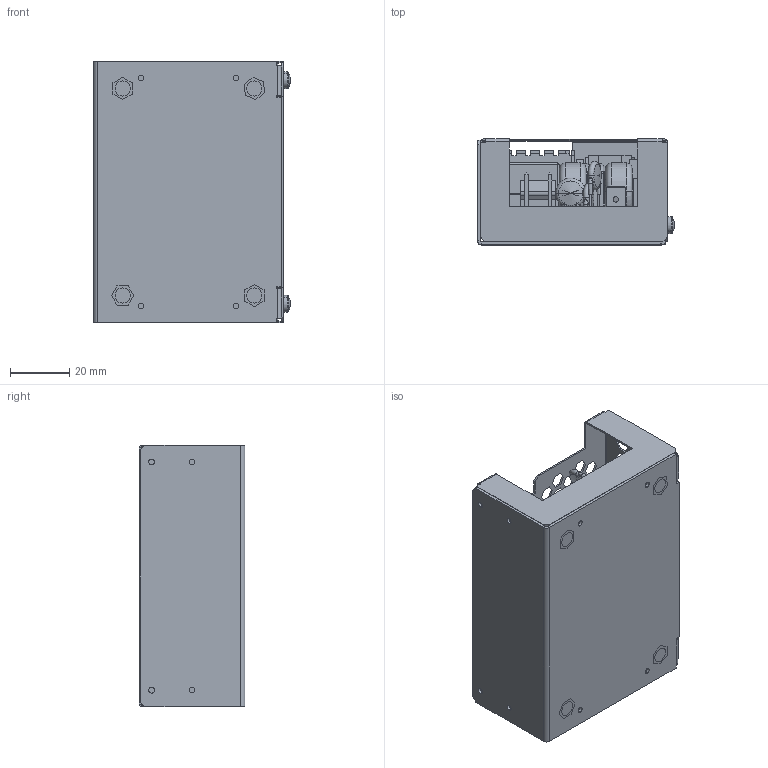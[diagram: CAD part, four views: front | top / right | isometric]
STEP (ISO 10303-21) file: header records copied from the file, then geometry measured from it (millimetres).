
FILE_DESCRIPTION (( 'STEP AP214' ), '1' );
FILE_NAME ('ECS45-5V-SINGLE-OUTPUT-WITH-COVER.STEP', '2010-06-29T18:21:40', ( 'ALL' ), ( 'XP Power' ), 'SwSTEP 2.0', 'SolidWorks 2010', '' );
FILE_SCHEMA (( 'AUTOMOTIVE_DESIGN' ));
Length unit declared in the file: inch
Products named in the file (40): Capacitor Disc_0.550 D_0.350" C; PHP_sqcone_Screw_M3-CW - 8; SCREW-PPH_M3.0X06; 1001054101; PQ20-20; WINDING; 10010385a0; ECS45-XFORMER; TO220_3P_FULL_01; Pot_TOCOS_G4C_TA; Capacitor Film_13x06mm_10 LS_15mm; Mov_0.350 D_A1_0.300" C; Capacitor Elec_10mm D_16mm; Capacitor Elec_05mm D_15mm; Inductor Toroid_19.0mm OD_10mm Width; Capacitor Film_18x07mm_15 LS_18mm H; Capacitor Disc_0.300 D_0.350C; Connector QD_.250 Tab; 1001054201; ECS45-5V-SINGLE-OUTPUT-WITH-COVER; ECS45-5V-SINGLE-OUTPUT; 1000956201; PEM-S0-3.5M3-8; Conn_MLX_KK156_Hdr_03P; Conn_MLX_KK156_Hdr_04P; 10008933C0; TO220_3P_01; 1000893401 (Heatsink Rect); Assy_HskRec_ECS45_5V_A0; Fuse Mini Rect_01; Nut_Hex Machine (Metric)_Nut H,M3 ; Washer_Split Lock_4_reg; ECM-RECTIFIER; Capacitor Elec_06mm D_15mm; Inductor Toroid_8.0mm OD_3.5mm Width; Capacitor Elec_16mm D_H2A_32mm
Assembly tree (53 placements, depth 4):
  ECS45-5V-SINGLE-OUTPUT-WITH-COVER
    ECS45-5V-SINGLE-OUTPUT
      Capacitor Elec_05mm D_15mm  x2
      Capacitor Elec_16mm D_H2A_32mm
      Fuse Mini Rect_01  x2
      Capacitor Disc_0.300 D_0.350C
      Connector QD_.250 Tab
      Assy_HskRec_ECS45_5V_A0
        Washer_Split Lock_4_reg
        1000893401 (Heatsink Rect)
        TO220_3P_01
        Nut_Hex Machine (Metric)_Nut H,M3 
        SCREW-PPH_M3.0X06
      Capacitor Elec_10mm D_16mm  x3
      Capacitor Disc_0.550 D_0.350" C
      ECS45-XFORMER
        PQ20-20  x2
        10010385a0
        WINDING
      10008933C0
      Conn_MLX_KK156_Hdr_04P
      Inductor Toroid_19.0mm OD_10mm Width  x2
      Capacitor Film_18x07mm_15 LS_18mm H
      Inductor Toroid_8.0mm OD_3.5mm Width
      Capacitor Film_13x06mm_10 LS_15mm
      Mov_0.350 D_A1_0.300" C
      ECM-RECTIFIER
      Capacitor Disc_0.300 D_0.350C
      Capacitor Disc_0.300 D_0.350C
      Capacitor Elec_06mm D_15mm
      Pot_TOCOS_G4C_TA
      Conn_MLX_KK156_Hdr_03P
      TO220_3P_FULL_01
      Capacitor Disc_0.300 D_0.350C
    1000956201
    PHP_sqcone_Screw_M3-CW - 8  x4
    1001054201
      1001054201
      PEM-S0-3.5M3-8  x4
    SCREW-PPH_M3.0X06  x2
    1001054101
Bounding box: 66.46 x 35.63 x 88.39 mm (x, y, z)
Volume: 54595.3 mm3; surface area: 83478.2 mm2
Topology: 49 solids, 58 shells, 3144 faces, 8165 edges, 5181 vertices
Faces by surface type: plane 1909, cylinder 745, torus 266, cone 174, sphere 30, bspline 20
Entity records: 105044 total; most frequent: CARTESIAN_POINT 21570, DIRECTION 14221, ORIENTED_EDGE 14098, EDGE_CURVE 7049, VECTOR 5057, LINE 5057, AXIS2_PLACEMENT_3D 4582, VERTEX_POINT 4533
